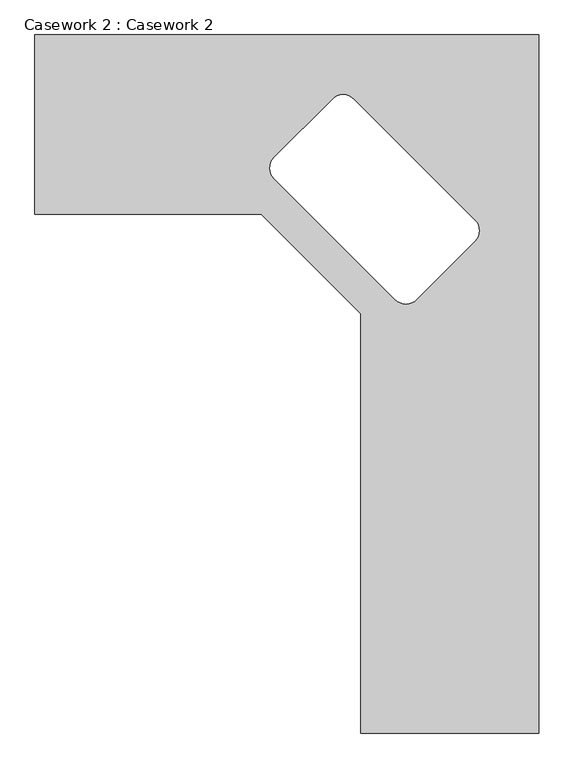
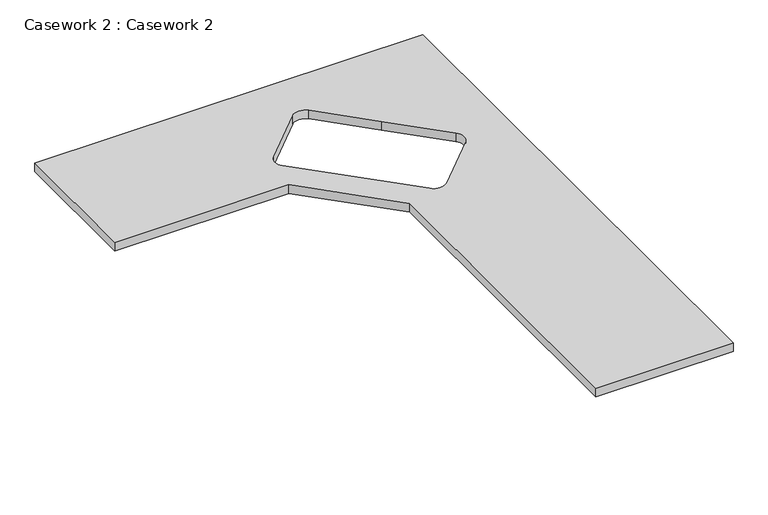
"""IFC4 building model written with IfcOpenShell, lengths in millimetres: furniture geometry, Casework 2 : Casework 2."""

from ifc_helpers import new_model, si_unit, point, frame, frame_2d, origin, place, context, project, spatial, polyline, circle_curve, trimmed, segment, composite_curve, outline, extrude, source, transform, mapped, element, save


def casework_2_casework_2_358c073b(model_context):
    return source(origin(), model_context, "Body", "SweptSolid", [
        extrude(outline(polyline([(6227.6897519, 8251.6620874), (5458.7971754, 8251.6620874), (5458.7971754, 8861.6620874), (7172.5234079, 8861.6620874), (7172.5234079, 6487.9358549), (6566.1734079, 6487.9358549), (6566.1734079, 7913.1784314), (6227.6897519, 8251.6620874)]), holes=[composite_curve([segment(trimmed(circle_curve(frame_2d((6506.900162, 8607.7164095)), 50.8), [point((6542.8211865, 8643.637434))], [point((6470.9791375, 8643.637434))], True, "CARTESIAN"), True, "CONTINUOUS"), segment(polyline([(6470.9791375, 8643.637434), (6272.282132, 8444.9404285)]), True, "CONTINUOUS"), segment(trimmed(circle_curve(frame_2d((6308.2031565, 8409.019404)), 50.8), [point((6272.282132, 8444.9404285))], [point((6272.282132, 8373.0983795))], True, "CARTESIAN"), True, "CONTINUOUS"), segment(polyline([(6272.282132, 8373.0983795), (6683.9597, 7961.4208115)]), True, "CONTINUOUS"), segment(trimmed(circle_curve(frame_2d((6719.8807245, 7997.341836)), 50.8), [point((6683.9597, 7961.4208115))], [point((6755.801749, 7961.4208115))], True, "CARTESIAN"), True, "CONTINUOUS"), segment(polyline([(6755.801749, 7961.4208115), (6954.4987545, 8160.117817)]), True, "CONTINUOUS"), segment(trimmed(circle_curve(frame_2d((6918.57773, 8196.0388415)), 50.8), [point((6954.4987545, 8160.117817))], [point((6954.4987545, 8231.959866))], True, "CARTESIAN"), True, "CONTINUOUS"), segment(polyline([(6954.4987545, 8231.959866), (6745.3328057, 8441.1258148), (6542.8211865, 8643.637434)]), True, "CONTINUOUS")], self_intersect=False)]), frame((0.0, 0.0, 7460.0), z_axis=(0.0, 0.0, 1.0), x_axis=(1.0, 0.0, 0.0)), (0.0, 0.0, 1.0), 40.0),
    ])


if __name__ == "__main__":
    model = new_model("IFC4")
    model_context = context("Model", 3, world=origin())
    ifc_project = project(units=[si_unit("LENGTHUNIT", "METRE", prefix="MILLI")], contexts=[model_context])
    site = spatial("IfcSite", under=ifc_project)
    building = spatial("IfcBuilding", under=site)
    placement = place(None, origin())
    casework_2_casework_2_shape = casework_2_casework_2_358c073b(model_context)
    element("IfcFurniture", 1, ObjectType="Casework 2 : Casework 2", at=placement, inside=building, context=model_context, shape_type="MappedRepresentation", body=[
        mapped(casework_2_casework_2_shape, transform((0.0, 0.0, 0.0), x_axis=(1.0, 0.0, 0.0), y_axis=(0.0, 1.0, 0.0), z_axis=(0.0, 0.0, 1.0))),
    ])
    save(model, "model.ifc")
